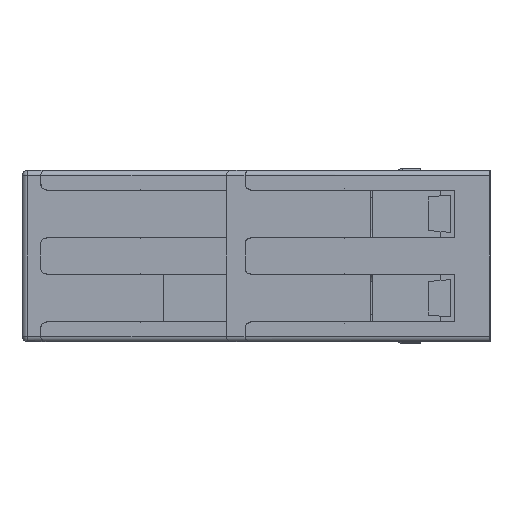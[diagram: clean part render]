
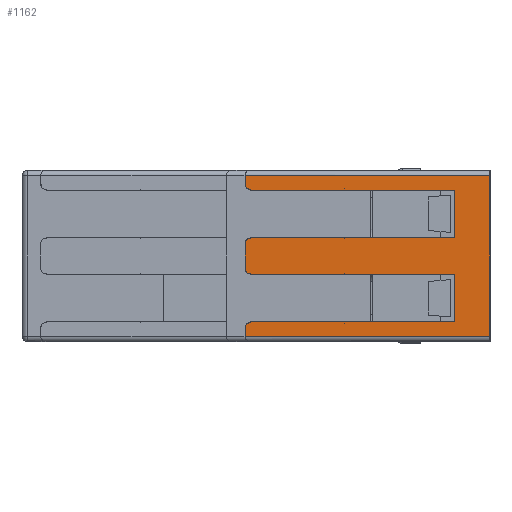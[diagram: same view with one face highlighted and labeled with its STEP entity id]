
A CAD part, left-side view. The second image highlights one B-rep face of the part: STEP entity #1162.
In plain terms, the highlighted planar face has unit normal (-1, 0.018, 0).
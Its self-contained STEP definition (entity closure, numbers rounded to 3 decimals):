
#522=PLANE('',#15742);
#1162=ADVANCED_FACE('',(#2144),#522,.F.);
#2144=FACE_OUTER_BOUND('',#2929,.T.);
#2929=EDGE_LOOP('',(#7741,#7742,#7743,#7744,#7745,#7746,#7747,#7748,#7749,
#7750,#7751,#7752,#7753,#7754,#7755,#7756,#7757,#7758,#7759,#7760,#7761,
#7762,#7763,#7764,#7765,#7766,#7767,#7768));
#3893=LINE('',#29301,#5645);
#3894=LINE('',#29306,#5646);
#3895=LINE('',#29308,#5647);
#3896=LINE('',#29310,#5648);
#3897=LINE('',#29312,#5649);
#3898=LINE('',#29314,#5650);
#3899=LINE('',#29318,#5651);
#3900=LINE('',#29320,#5652);
#3901=LINE('',#29322,#5653);
#3902=LINE('',#29324,#5654);
#3903=LINE('',#29326,#5655);
#3904=LINE('',#29328,#5656);
#3905=LINE('',#29330,#5657);
#3906=LINE('',#29332,#5658);
#3907=LINE('',#29334,#5659);
#3908=LINE('',#29338,#5660);
#3909=LINE('',#29342,#5661);
#3910=LINE('',#29344,#5662);
#3911=LINE('',#29346,#5663);
#3912=LINE('',#29348,#5664);
#3913=LINE('',#29350,#5665);
#3914=LINE('',#29352,#5666);
#3915=LINE('',#29354,#5667);
#3916=LINE('',#29356,#5668);
#5645=VECTOR('',#17166,1.);
#5646=VECTOR('',#17169,1.);
#5647=VECTOR('',#17170,1.);
#5648=VECTOR('',#17171,1.);
#5649=VECTOR('',#17172,1.);
#5650=VECTOR('',#17173,1.);
#5651=VECTOR('',#17176,1.);
#5652=VECTOR('',#17177,1.);
#5653=VECTOR('',#17178,1.);
#5654=VECTOR('',#17179,1.);
#5655=VECTOR('',#17180,1.);
#5656=VECTOR('',#17181,1.);
#5657=VECTOR('',#17182,1.);
#5658=VECTOR('',#17183,1.);
#5659=VECTOR('',#17184,1.);
#5660=VECTOR('',#17187,1.);
#5661=VECTOR('',#17190,1.);
#5662=VECTOR('',#17191,1.);
#5663=VECTOR('',#17192,1.);
#5664=VECTOR('',#17193,1.);
#5665=VECTOR('',#17194,1.);
#5666=VECTOR('',#17195,1.);
#5667=VECTOR('',#17196,1.);
#5668=VECTOR('',#17197,1.);
#7741=ORIENTED_EDGE('',*,*,#13378,.T.);
#7742=ORIENTED_EDGE('',*,*,#13379,.T.);
#7743=ORIENTED_EDGE('',*,*,#13380,.F.);
#7744=ORIENTED_EDGE('',*,*,#13381,.T.);
#7745=ORIENTED_EDGE('',*,*,#13382,.T.);
#7746=ORIENTED_EDGE('',*,*,#13383,.T.);
#7747=ORIENTED_EDGE('',*,*,#13384,.F.);
#7748=ORIENTED_EDGE('',*,*,#13385,.F.);
#7749=ORIENTED_EDGE('',*,*,#13386,.F.);
#7750=ORIENTED_EDGE('',*,*,#13387,.F.);
#7751=ORIENTED_EDGE('',*,*,#13388,.F.);
#7752=ORIENTED_EDGE('',*,*,#13389,.F.);
#7753=ORIENTED_EDGE('',*,*,#13390,.F.);
#7754=ORIENTED_EDGE('',*,*,#13391,.T.);
#7755=ORIENTED_EDGE('',*,*,#13392,.T.);
#7756=ORIENTED_EDGE('',*,*,#13393,.T.);
#7757=ORIENTED_EDGE('',*,*,#13394,.T.);
#7758=ORIENTED_EDGE('',*,*,#13395,.T.);
#7759=ORIENTED_EDGE('',*,*,#13396,.F.);
#7760=ORIENTED_EDGE('',*,*,#13397,.F.);
#7761=ORIENTED_EDGE('',*,*,#13398,.F.);
#7762=ORIENTED_EDGE('',*,*,#13399,.F.);
#7763=ORIENTED_EDGE('',*,*,#13400,.F.);
#7764=ORIENTED_EDGE('',*,*,#13401,.F.);
#7765=ORIENTED_EDGE('',*,*,#13402,.T.);
#7766=ORIENTED_EDGE('',*,*,#13403,.T.);
#7767=ORIENTED_EDGE('',*,*,#13404,.T.);
#7768=ORIENTED_EDGE('',*,*,#13405,.T.);
#11896=VERTEX_POINT('',#29302);
#11897=VERTEX_POINT('',#29303);
#11898=VERTEX_POINT('',#29305);
#11899=VERTEX_POINT('',#29307);
#11900=VERTEX_POINT('',#29309);
#11901=VERTEX_POINT('',#29311);
#11902=VERTEX_POINT('',#29313);
#11903=VERTEX_POINT('',#29315);
#11904=VERTEX_POINT('',#29317);
#11905=VERTEX_POINT('',#29319);
#11906=VERTEX_POINT('',#29321);
#11907=VERTEX_POINT('',#29323);
#11908=VERTEX_POINT('',#29325);
#11909=VERTEX_POINT('',#29327);
#11910=VERTEX_POINT('',#29329);
#11911=VERTEX_POINT('',#29331);
#11912=VERTEX_POINT('',#29333);
#11913=VERTEX_POINT('',#29335);
#11914=VERTEX_POINT('',#29337);
#11915=VERTEX_POINT('',#29339);
#11916=VERTEX_POINT('',#29341);
#11917=VERTEX_POINT('',#29343);
#11918=VERTEX_POINT('',#29345);
#11919=VERTEX_POINT('',#29347);
#11920=VERTEX_POINT('',#29349);
#11921=VERTEX_POINT('',#29351);
#11922=VERTEX_POINT('',#29353);
#11923=VERTEX_POINT('',#29355);
#13378=EDGE_CURVE('',#11896,#11897,#3893,.T.);
#13379=EDGE_CURVE('',#11897,#11898,#15397,.T.);
#13380=EDGE_CURVE('',#11899,#11898,#3894,.T.);
#13381=EDGE_CURVE('',#11899,#11900,#3895,.T.);
#13382=EDGE_CURVE('',#11900,#11901,#3896,.T.);
#13383=EDGE_CURVE('',#11901,#11902,#3897,.T.);
#13384=EDGE_CURVE('',#11903,#11902,#3898,.T.);
#13385=EDGE_CURVE('',#11904,#11903,#15398,.T.);
#13386=EDGE_CURVE('',#11905,#11904,#3899,.T.);
#13387=EDGE_CURVE('',#11906,#11905,#3900,.T.);
#13388=EDGE_CURVE('',#11907,#11906,#3901,.T.);
#13389=EDGE_CURVE('',#11908,#11907,#3902,.T.);
#13390=EDGE_CURVE('',#11909,#11908,#3903,.T.);
#13391=EDGE_CURVE('',#11909,#11910,#3904,.T.);
#13392=EDGE_CURVE('',#11910,#11911,#3905,.T.);
#13393=EDGE_CURVE('',#11911,#11912,#3906,.T.);
#13394=EDGE_CURVE('',#11912,#11913,#3907,.T.);
#13395=EDGE_CURVE('',#11913,#11914,#15399,.T.);
#13396=EDGE_CURVE('',#11915,#11914,#3908,.T.);
#13397=EDGE_CURVE('',#11916,#11915,#15400,.T.);
#13398=EDGE_CURVE('',#11917,#11916,#3909,.T.);
#13399=EDGE_CURVE('',#11918,#11917,#3910,.T.);
#13400=EDGE_CURVE('',#11919,#11918,#3911,.T.);
#13401=EDGE_CURVE('',#11920,#11919,#3912,.T.);
#13402=EDGE_CURVE('',#11920,#11921,#3913,.T.);
#13403=EDGE_CURVE('',#11921,#11922,#3914,.T.);
#13404=EDGE_CURVE('',#11922,#11923,#3915,.T.);
#13405=EDGE_CURVE('',#11923,#11896,#3916,.T.);
#15397=CIRCLE('',#15738,0.5);
#15398=CIRCLE('',#15739,0.5);
#15399=CIRCLE('',#15740,0.5);
#15400=CIRCLE('',#15741,0.5);
#15738=AXIS2_PLACEMENT_3D('',#29304,#17167,#17168);
#15739=AXIS2_PLACEMENT_3D('',#29316,#17174,#17175);
#15740=AXIS2_PLACEMENT_3D('',#29336,#17185,#17186);
#15741=AXIS2_PLACEMENT_3D('',#29340,#17188,#17189);
#15742=AXIS2_PLACEMENT_3D('',#29357,#17198,#17199);
#17166=DIRECTION('',(0.,0.,-1.));
#17167=DIRECTION('',(-1.,0.017,0.));
#17168=DIRECTION('',(0.,0.,1.));
#17169=DIRECTION('',(0.,0.,1.));
#17170=DIRECTION('',(-0.017,-1.,0.));
#17171=DIRECTION('',(0.,0.,1.));
#17172=DIRECTION('',(0.017,1.,0.));
#17173=DIRECTION('',(0.,0.,1.));
#17174=DIRECTION('',(1.,-0.017,0.));
#17175=DIRECTION('',(0.,0.,-1.));
#17176=DIRECTION('',(0.,0.,1.));
#17177=DIRECTION('',(0.017,1.,0.));
#17178=DIRECTION('',(0.017,1.,0.));
#17179=DIRECTION('',(0.017,1.,0.));
#17180=DIRECTION('',(0.,0.,1.));
#17181=DIRECTION('',(0.017,1.,0.));
#17182=DIRECTION('',(0.017,1.,0.));
#17183=DIRECTION('',(0.017,1.,0.));
#17184=DIRECTION('',(0.,0.,-1.));
#17185=DIRECTION('',(-1.,0.017,0.));
#17186=DIRECTION('',(0.,0.,1.));
#17187=DIRECTION('',(0.,0.,1.));
#17188=DIRECTION('',(1.,-0.017,0.));
#17189=DIRECTION('',(0.,0.,-1.));
#17190=DIRECTION('',(0.,0.,1.));
#17191=DIRECTION('',(0.017,1.,0.));
#17192=DIRECTION('',(0.017,1.,0.));
#17193=DIRECTION('',(0.017,1.,0.));
#17194=DIRECTION('',(0.,0.,-1.));
#17195=DIRECTION('',(0.017,1.,0.));
#17196=DIRECTION('',(0.017,1.,0.));
#17197=DIRECTION('',(0.017,1.,0.));
#17198=DIRECTION('',(1.,-0.017,0.));
#17199=DIRECTION('',(0.017,1.,0.));
#29301=CARTESIAN_POINT('',(-37.369,21.8,-5.796));
#29302=CARTESIAN_POINT('',(-37.369,21.8,-6.));
#29303=CARTESIAN_POINT('',(-37.369,21.8,-6.065));
#29304=CARTESIAN_POINT('',(-37.369,21.8,-6.565));
#29305=CARTESIAN_POINT('',(-37.361,22.3,-6.565));
#29306=CARTESIAN_POINT('',(-37.361,22.3,-7.8));
#29307=CARTESIAN_POINT('',(-37.361,22.3,-7.3));
#29308=CARTESIAN_POINT('',(-37.75,0.,-7.3));
#29309=CARTESIAN_POINT('',(-37.75,0.,-7.3));
#29310=CARTESIAN_POINT('',(-37.75,0.,-7.8));
#29311=CARTESIAN_POINT('',(-37.75,0.,7.3));
#29312=CARTESIAN_POINT('',(-37.361,22.3,7.3));
#29313=CARTESIAN_POINT('',(-37.361,22.3,7.3));
#29314=CARTESIAN_POINT('',(-37.361,22.3,-7.8));
#29315=CARTESIAN_POINT('',(-37.361,22.3,6.565));
#29316=CARTESIAN_POINT('',(-37.369,21.8,6.565));
#29317=CARTESIAN_POINT('',(-37.369,21.8,6.065));
#29318=CARTESIAN_POINT('',(-37.369,21.8,5.796));
#29319=CARTESIAN_POINT('',(-37.369,21.8,6.));
#29320=CARTESIAN_POINT('',(-37.694,3.2,6.));
#29321=CARTESIAN_POINT('',(-37.52,13.201,6.));
#29322=CARTESIAN_POINT('',(-37.694,3.2,6.));
#29323=CARTESIAN_POINT('',(-37.694,3.2,6.));
#29324=CARTESIAN_POINT('',(-37.694,3.2,6.));
#29325=CARTESIAN_POINT('',(-37.694,3.2,6.));
#29326=CARTESIAN_POINT('',(-37.694,3.2,1.7));
#29327=CARTESIAN_POINT('',(-37.694,3.2,1.7));
#29328=CARTESIAN_POINT('',(-37.694,3.2,1.7));
#29329=CARTESIAN_POINT('',(-37.694,3.2,1.7));
#29330=CARTESIAN_POINT('',(-37.694,3.2,1.7));
#29331=CARTESIAN_POINT('',(-37.52,13.201,1.7));
#29332=CARTESIAN_POINT('',(-37.694,3.2,1.7));
#29333=CARTESIAN_POINT('',(-37.369,21.8,1.7));
#29334=CARTESIAN_POINT('',(-37.369,21.8,1.904));
#29335=CARTESIAN_POINT('',(-37.369,21.8,1.635));
#29336=CARTESIAN_POINT('',(-37.369,21.8,1.135));
#29337=CARTESIAN_POINT('',(-37.361,22.3,1.135));
#29338=CARTESIAN_POINT('',(-37.361,22.3,-7.8));
#29339=CARTESIAN_POINT('',(-37.361,22.3,-1.135));
#29340=CARTESIAN_POINT('',(-37.369,21.8,-1.135));
#29341=CARTESIAN_POINT('',(-37.369,21.8,-1.635));
#29342=CARTESIAN_POINT('',(-37.369,21.8,-1.904));
#29343=CARTESIAN_POINT('',(-37.369,21.8,-1.7));
#29344=CARTESIAN_POINT('',(-37.694,3.2,-1.7));
#29345=CARTESIAN_POINT('',(-37.52,13.201,-1.7));
#29346=CARTESIAN_POINT('',(-37.694,3.2,-1.7));
#29347=CARTESIAN_POINT('',(-37.694,3.2,-1.7));
#29348=CARTESIAN_POINT('',(-37.694,3.2,-1.7));
#29349=CARTESIAN_POINT('',(-37.694,3.2,-1.7));
#29350=CARTESIAN_POINT('',(-37.694,3.2,-1.7));
#29351=CARTESIAN_POINT('',(-37.694,3.2,-6.));
#29352=CARTESIAN_POINT('',(-37.694,3.2,-6.));
#29353=CARTESIAN_POINT('',(-37.694,3.2,-6.));
#29354=CARTESIAN_POINT('',(-37.694,3.2,-6.));
#29355=CARTESIAN_POINT('',(-37.52,13.201,-6.));
#29356=CARTESIAN_POINT('',(-37.694,3.2,-6.));
#29357=CARTESIAN_POINT('',(-37.75,0.,-7.8));
